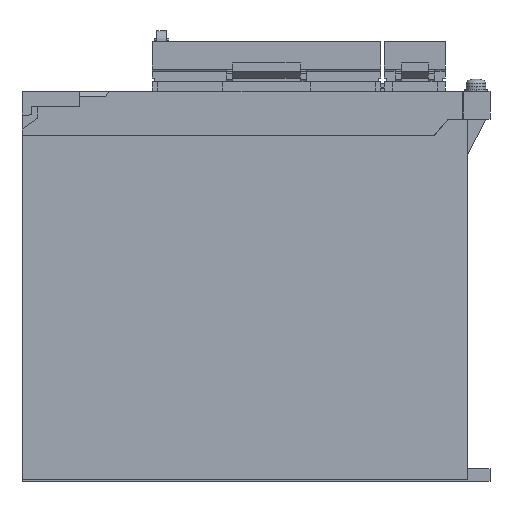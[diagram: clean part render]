
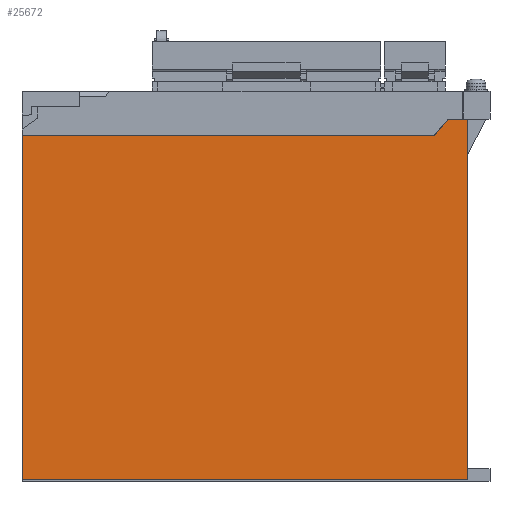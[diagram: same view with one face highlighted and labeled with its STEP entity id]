
A CAD part, left-side view. The second image highlights one B-rep face of the part: STEP entity #25672.
In plain terms, the highlighted planar face has unit normal (-1, 0, 0).
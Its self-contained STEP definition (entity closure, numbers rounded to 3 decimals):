
#3299=DIRECTION('',(0.,1.,0.));
#3300=VECTOR('',#3299,7.);
#3301=CARTESIAN_POINT('',(0.,0.,129.8));
#3302=LINE('',#3301,#3300);
#3711=DIRECTION('',(0.,-1.,0.));
#3712=VECTOR('',#3711,148.);
#3713=CARTESIAN_POINT('',(0.,160.,124.));
#3714=LINE('',#3713,#3712);
#3715=DIRECTION('',(0.,0.653,-0.757));
#3716=VECTOR('',#3715,7.658);
#3717=CARTESIAN_POINT('',(0.,7.,129.8));
#3718=LINE('',#3717,#3716);
#3719=DIRECTION('',(0.,0.,-1.));
#3720=VECTOR('',#3719,129.3);
#3721=CARTESIAN_POINT('',(0.,0.,129.8));
#3722=LINE('',#3721,#3720);
#3755=DIRECTION('',(0.,-1.,0.));
#3756=VECTOR('',#3755,160.);
#3757=CARTESIAN_POINT('',(0.,160.,0.5));
#3758=LINE('',#3757,#3756);
#4675=DIRECTION('',(0.,0.,-1.));
#4676=VECTOR('',#4675,123.5);
#4677=CARTESIAN_POINT('',(0.,160.,124.));
#4678=LINE('',#4677,#4676);
#14352=CARTESIAN_POINT('',(0.,160.,124.));
#14353=CARTESIAN_POINT('',(0.,160.,0.5));
#14354=VERTEX_POINT('',#14352);
#14355=VERTEX_POINT('',#14353);
#14356=CARTESIAN_POINT('',(0.,0.,0.5));
#14357=VERTEX_POINT('',#14356);
#14358=CARTESIAN_POINT('',(0.,0.,129.8));
#14359=VERTEX_POINT('',#14358);
#14360=CARTESIAN_POINT('',(0.,7.,129.8));
#14361=CARTESIAN_POINT('',(0.,12.,124.));
#14362=VERTEX_POINT('',#14360);
#14363=VERTEX_POINT('',#14361);
#25656=CARTESIAN_POINT('',(0.,160.,124.));
#25657=DIRECTION('',(-1.,0.,0.));
#25658=DIRECTION('',(0.,0.,-1.));
#25659=AXIS2_PLACEMENT_3D('',#25656,#25657,#25658);
#25660=PLANE('',#25659);
#25661=ORIENTED_EDGE('',*,*,#19086,.T.);
#25663=ORIENTED_EDGE('',*,*,#25662,.F.);
#25664=ORIENTED_EDGE('',*,*,#24800,.F.);
#25665=ORIENTED_EDGE('',*,*,#24737,.T.);
#25667=ORIENTED_EDGE('',*,*,#25666,.F.);
#25669=ORIENTED_EDGE('',*,*,#25668,.F.);
#25670=EDGE_LOOP('',(#25661,#25663,#25664,#25665,#25667,#25669));
#25671=FACE_OUTER_BOUND('',#25670,.F.);
#19086=EDGE_CURVE('',#14354,#14363,#3714,.T.);
#24737=EDGE_CURVE('',#14359,#14357,#3722,.T.);
#24800=EDGE_CURVE('',#14359,#14362,#3302,.T.);
#25662=EDGE_CURVE('',#14362,#14363,#3718,.T.);
#25666=EDGE_CURVE('',#14355,#14357,#3758,.T.);
#25668=EDGE_CURVE('',#14354,#14355,#4678,.T.);
#25672=ADVANCED_FACE('',(#25671),#25660,.T.);
